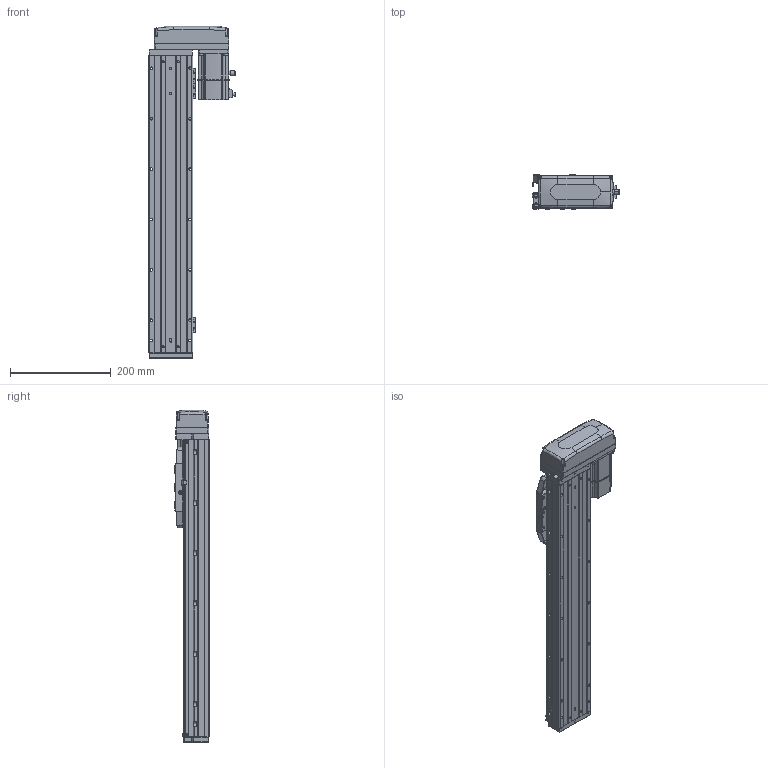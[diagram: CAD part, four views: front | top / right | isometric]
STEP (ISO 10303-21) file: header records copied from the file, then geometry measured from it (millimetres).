
FILE_DESCRIPTION (( 'STEP AP203' ), '1' );
FILE_NAME ('CTHA86-400-BL-M20-C4L.step', '2022-04-26T00:51:03', ( '微软用户' ), ( '微软中国' ), 'SwSTEP 2.0', 'SolidWorks 2020', '' );
FILE_SCHEMA (( 'CONFIG_CONTROL_DESIGN' ));
Length unit declared in the file: millimetre
Products named in the file (21): CTHA60-021; CTHA86-030; KTHA86-001_590; GBT77-2000 M3×3; GBT 70.3-M3℅6; KTHA86-004; GBT 70.1-M3×20; CTHA86-015-1_CTHA86-015-2; KTHA86-005; GBT70.1 M5℅16; CTHA86-033; GB¨uT 70.2-M3¡Á5_M3¡Á6; GBT 70.1-M3×16; _X2_4E0983F1_X0_200W_1; CTHA86-400-BL-M20-C4L; EE_SX911P_R; GBT 70.1-M3℅6; CTHA86-002; CTHA60-017; CTHA60-016; CTHA86-031
Assembly tree (66 placements, depth 2):
  CTHA86-400-BL-M20-C4L
    KTHA86-001_590
    KTHA86-004
    KTHA86-005
    GB¨uT 70.2-M3¡Á5_M3¡Á6  x10
    EE_SX911P_R  x3
    CTHA60-017  x3
    CTHA60-021  x2
    GBT77-2000 M3×3  x6
    GBT 70.1-M3×20
    GBT70.1 M5℅16  x14
    GBT 70.1-M3×16  x5
    GBT 70.1-M3℅6  x6
    CTHA60-016  x2
    _X2_4E0983F1_X0_200W_1
    CTHA86-002
    CTHA86-031
    CTHA86-030  x2
    GBT 70.3-M3℅6  x4
    CTHA86-015-1_CTHA86-015-2
    CTHA86-033
Bounding box: 172.7 x 68 x 659 mm (x, y, z)
Volume: 2814457.5 mm3; surface area: 497298 mm2
Topology: 68 solids, 68 shells, 2746 faces, 6540 edges, 4024 vertices
Faces by surface type: plane 1439, cylinder 711, cone 365, torus 132, bspline 75, sphere 24
Entity records: 47789 total; most frequent: CARTESIAN_POINT 9283, DIRECTION 7409, ORIENTED_EDGE 7180, EDGE_CURVE 3590, AXIS2_PLACEMENT_3D 2534, VECTOR 2341, LINE 2341, VERTEX_POINT 2256
